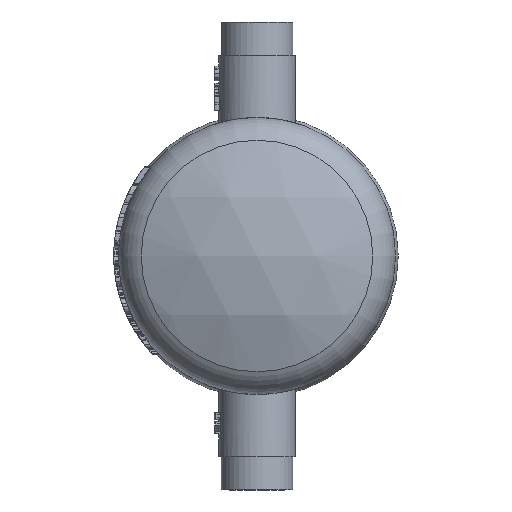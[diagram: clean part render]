
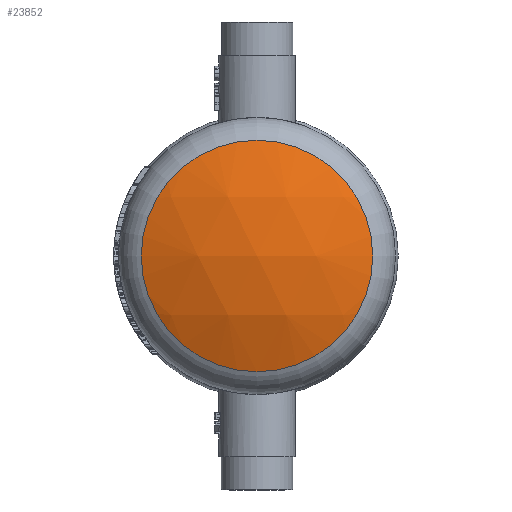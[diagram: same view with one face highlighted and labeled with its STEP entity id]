
A CAD part, front view. The second image highlights one B-rep face of the part: STEP entity #23852.
In plain terms, the highlighted spherical face has radius 60 mm.
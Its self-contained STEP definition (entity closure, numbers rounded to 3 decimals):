
#870=SPHERICAL_SURFACE('',#25249,60.);
#1145=CIRCLE('',#25250,24.231);
#1708=FACE_OUTER_BOUND('',#3096,.T.);
#3096=EDGE_LOOP('',(#15642));
#9322=VERTEX_POINT('',#32605);
#11853=EDGE_CURVE('',#9322,#9322,#1145,.T.);
#15642=ORIENTED_EDGE('',*,*,#11853,.T.);
#23852=ADVANCED_FACE('',(#1708),#870,.T.);
#25249=AXIS2_PLACEMENT_3D('',#32604,#27080,#27081);
#25250=AXIS2_PLACEMENT_3D('',#32606,#27082,#27083);
#27080=DIRECTION('center_axis',(0.,0.,
1.));
#27081=DIRECTION('ref_axis',(-1.,0.,0.));
#27082=DIRECTION('center_axis',(0.,-1.,0.));
#27083=DIRECTION('ref_axis',(1.,0.,0.));
#32604=CARTESIAN_POINT('Origin',(0.,-10.,0.));
#32605=CARTESIAN_POINT('',(24.231,-64.89,0.));
#32606=CARTESIAN_POINT('Origin',(0.,-64.89,
0.));
